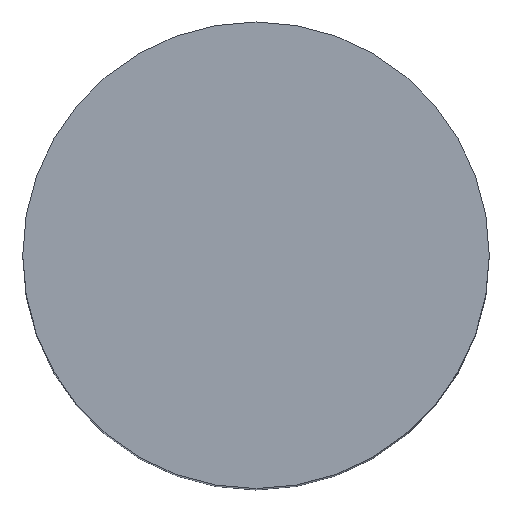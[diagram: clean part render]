
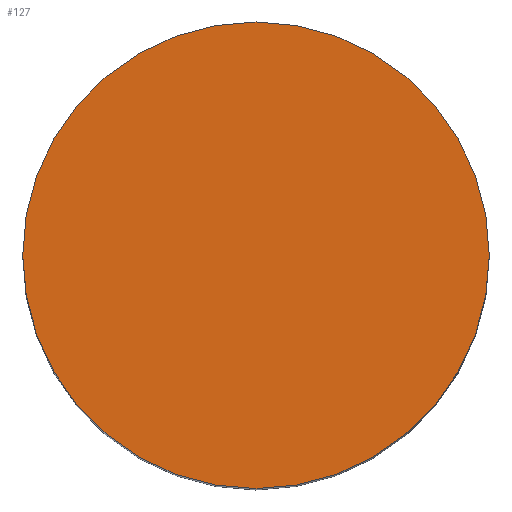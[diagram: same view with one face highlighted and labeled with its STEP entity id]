
A CAD part, top view. The second image highlights one B-rep face of the part: STEP entity #127.
In plain terms, the highlighted planar face has unit normal (0, 0, 1).
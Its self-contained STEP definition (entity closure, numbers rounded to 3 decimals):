
#49 = CYLINDRICAL_SURFACE('',#50,3.15);
#50 = AXIS2_PLACEMENT_3D('',#51,#52,#53);
#51 = CARTESIAN_POINT('',(0.,0.,0.));
#52 = DIRECTION('',(-0.,-0.,-1.));
#53 = DIRECTION('',(1.,0.,0.));
#74 = VERTEX_POINT('',#75);
#75 = CARTESIAN_POINT('',(3.15,0.,11.));
#96 = EDGE_CURVE('',#74,#74,#97,.T.);
#97 = SURFACE_CURVE('',#98,(#103,#110),.PCURVE_S1.);
#98 = CIRCLE('',#99,3.15);
#99 = AXIS2_PLACEMENT_3D('',#100,#101,#102);
#100 = CARTESIAN_POINT('',(0.,0.,11.));
#101 = DIRECTION('',(0.,0.,1.));
#102 = DIRECTION('',(1.,0.,-0.));
#103 = PCURVE('',#49,#104);
#104 = DEFINITIONAL_REPRESENTATION('',(#105),#109);
#105 = LINE('',#106,#107);
#106 = CARTESIAN_POINT('',(6.283,-11.));
#107 = VECTOR('',#108,1.);
#108 = DIRECTION('',(-1.,0.));
#109 = ( GEOMETRIC_REPRESENTATION_CONTEXT(2) 
PARAMETRIC_REPRESENTATION_CONTEXT() REPRESENTATION_CONTEXT('2D SPACE',''
  ) );
#110 = PCURVE('',#111,#116);
#111 = PLANE('',#112);
#112 = AXIS2_PLACEMENT_3D('',#113,#114,#115);
#113 = CARTESIAN_POINT('',(0.,0.,11.));
#114 = DIRECTION('',(0.,0.,1.));
#115 = DIRECTION('',(1.,0.,-0.));
#116 = DEFINITIONAL_REPRESENTATION('',(#117),#121);
#117 = CIRCLE('',#118,3.15);
#118 = AXIS2_PLACEMENT_2D('',#119,#120);
#119 = CARTESIAN_POINT('',(0.,0.));
#120 = DIRECTION('',(1.,0.));
#121 = ( GEOMETRIC_REPRESENTATION_CONTEXT(2) 
PARAMETRIC_REPRESENTATION_CONTEXT() REPRESENTATION_CONTEXT('2D SPACE',''
  ) );
#127 = ADVANCED_FACE('',(#128),#111,.T.);
#128 = FACE_BOUND('',#129,.T.);
#129 = EDGE_LOOP('',(#130));
#130 = ORIENTED_EDGE('',*,*,#96,.T.);
